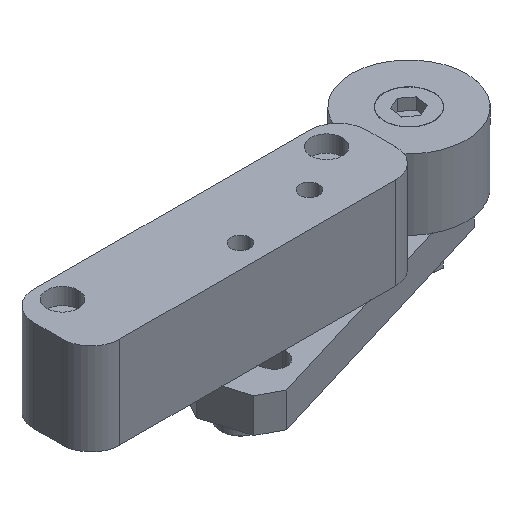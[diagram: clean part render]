
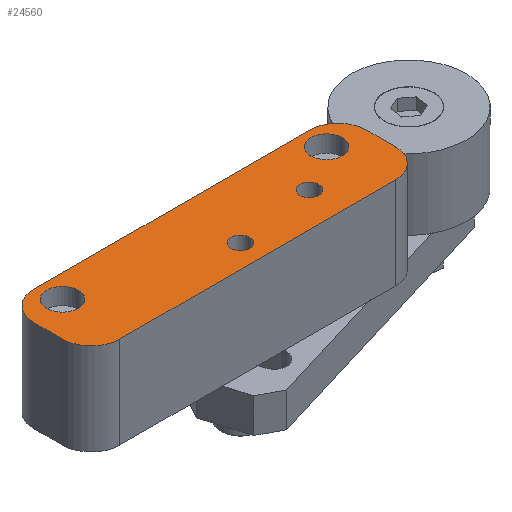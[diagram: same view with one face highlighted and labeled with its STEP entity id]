
A CAD part, isometric view. The second image highlights one B-rep face of the part: STEP entity #24560.
In plain terms, the highlighted planar face has unit normal (0, 0, 1).
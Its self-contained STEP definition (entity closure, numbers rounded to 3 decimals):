
#268 = DIRECTION ( 'NONE',  ( 0., 0., 1. ) ) ;
#677 = DIRECTION ( 'NONE',  ( 1., 0., 0. ) ) ;
#854 = CARTESIAN_POINT ( 'NONE',  ( 0., 15., 16. ) ) ;
#990 = AXIS2_PLACEMENT_3D ( 'NONE', #6327, #21563, #12898 ) ;
#1001 = PLANE ( 'NONE',  #22107 ) ;
#1204 = CIRCLE ( 'NONE', #4461, 5. ) ;
#1300 = CARTESIAN_POINT ( 'NONE',  ( 5., 10., 16. ) ) ;
#1383 = EDGE_CURVE ( 'NONE', #1759, #11431, #6892, .T. ) ;
#1657 = CARTESIAN_POINT ( 'NONE',  ( 49.25, 11., 16. ) ) ;
#1759 = VERTEX_POINT ( 'NONE', #12812 ) ;
#1770 = AXIS2_PLACEMENT_3D ( 'NONE', #1903, #15436, #13404 ) ;
#1903 = CARTESIAN_POINT ( 'NONE',  ( 44., 6., 16. ) ) ;
#2221 = CARTESIAN_POINT ( 'NONE',  ( 6., 11., 16. ) ) ;
#2296 = AXIS2_PLACEMENT_3D ( 'NONE', #13929, #27250, #13508 ) ;
#2404 = AXIS2_PLACEMENT_3D ( 'NONE', #14928, #24013, #4146 ) ;
#2541 = CARTESIAN_POINT ( 'NONE',  ( 5., 15., 16. ) ) ;
#2671 = ORIENTED_EDGE ( 'NONE', *, *, #11312, .F. ) ;
#2823 = CARTESIAN_POINT ( 'NONE',  ( 28.35, 4., 16. ) ) ;
#3387 = EDGE_CURVE ( 'NONE', #24542, #4888, #7503, .T. ) ;
#3896 = CARTESIAN_POINT ( 'NONE',  ( 5., 0., 16. ) ) ;
#4009 = VECTOR ( 'NONE', #22510, 1000. ) ;
#4031 = DIRECTION ( 'NONE',  ( -1., 0., 0. ) ) ;
#4146 = DIRECTION ( 'NONE',  ( -1., 0., 0. ) ) ;
#4163 = LINE ( 'NONE', #14646, #21998 ) ;
#4186 = DIRECTION ( 'NONE',  ( 0., 0., -1. ) ) ;
#4377 = CARTESIAN_POINT ( 'NONE',  ( 0., 0., 16. ) ) ;
#4434 = CARTESIAN_POINT ( 'NONE',  ( 0., 10., 16. ) ) ;
#4461 = AXIS2_PLACEMENT_3D ( 'NONE', #18467, #16456, #27310 ) ;
#4888 = VERTEX_POINT ( 'NONE', #2823 ) ;
#5186 = VERTEX_POINT ( 'NONE', #22483 ) ;
#5533 = DIRECTION ( 'NONE',  ( 0., 1., 0. ) ) ;
#5577 = EDGE_LOOP ( 'NONE', ( #20976, #9783 ) ) ;
#5654 = DIRECTION ( 'NONE',  ( -1., 0., 0. ) ) ;
#5753 = DIRECTION ( 'NONE',  ( 1., 0., 0. ) ) ;
#5769 = FACE_BOUND ( 'NONE', #13762, .T. ) ;
#6163 = EDGE_CURVE ( 'NONE', #24650, #15164, #24645, .T. ) ;
#6258 = ORIENTED_EDGE ( 'NONE', *, *, #3387, .F. ) ;
#6327 = CARTESIAN_POINT ( 'NONE',  ( 30., 4., 16. ) ) ;
#6892 = CIRCLE ( 'NONE', #1770, 1.65 ) ;
#7503 = CIRCLE ( 'NONE', #990, 1.65 ) ;
#7560 = FACE_BOUND ( 'NONE', #20367, .T. ) ;
#7830 = DIRECTION ( 'NONE',  ( 0., 0., 1. ) ) ;
#7885 = CARTESIAN_POINT ( 'NONE',  ( 58., 0., 16. ) ) ;
#8118 = DIRECTION ( 'NONE',  ( 0., 0., 1. ) ) ;
#8158 = ORIENTED_EDGE ( 'NONE', *, *, #21515, .T. ) ;
#8241 = ORIENTED_EDGE ( 'NONE', *, *, #12576, .F. ) ;
#8267 = CIRCLE ( 'NONE', #17101, 5. ) ;
#8407 = VERTEX_POINT ( 'NONE', #11953 ) ;
#8426 = CARTESIAN_POINT ( 'NONE',  ( 53., 0., 16. ) ) ;
#8636 = DIRECTION ( 'NONE',  ( 1., 0., 0. ) ) ;
#8673 = AXIS2_PLACEMENT_3D ( 'NONE', #23437, #7830, #5753 ) ;
#9016 = DIRECTION ( 'NONE',  ( 1., 0., 0. ) ) ;
#9027 = EDGE_CURVE ( 'NONE', #26668, #27558, #11554, .T. ) ;
#9291 = CARTESIAN_POINT ( 'NONE',  ( 44., 6., 16. ) ) ;
#9604 = FACE_OUTER_BOUND ( 'NONE', #11976, .T. ) ;
#9653 = AXIS2_PLACEMENT_3D ( 'NONE', #20326, #11498, #9016 ) ;
#9705 = ORIENTED_EDGE ( 'NONE', *, *, #20348, .T. ) ;
#9779 = CARTESIAN_POINT ( 'NONE',  ( 53., 10., 16. ) ) ;
#9783 = ORIENTED_EDGE ( 'NONE', *, *, #11195, .F. ) ;
#10185 = CIRCLE ( 'NONE', #8673, 2.75 ) ;
#10195 = AXIS2_PLACEMENT_3D ( 'NONE', #9291, #268, #677 ) ;
#10362 = LINE ( 'NONE', #7885, #19391 ) ;
#10766 = VERTEX_POINT ( 'NONE', #13599 ) ;
#10909 = EDGE_LOOP ( 'NONE', ( #11395, #2671 ) ) ;
#11195 = EDGE_CURVE ( 'NONE', #17557, #11989, #14830, .T. ) ;
#11312 = EDGE_CURVE ( 'NONE', #11431, #1759, #22660, .T. ) ;
#11395 = ORIENTED_EDGE ( 'NONE', *, *, #1383, .F. ) ;
#11431 = VERTEX_POINT ( 'NONE', #28542 ) ;
#11498 = DIRECTION ( 'NONE',  ( 0., 0., 1. ) ) ;
#11554 = LINE ( 'NONE', #4377, #4009 ) ;
#11953 = CARTESIAN_POINT ( 'NONE',  ( 54.75, 11., 16. ) ) ;
#11976 = EDGE_LOOP ( 'NONE', ( #21919, #12438, #12371, #9705, #26650, #26683, #8158, #15586 ) ) ;
#11989 = VERTEX_POINT ( 'NONE', #20509 ) ;
#12333 = EDGE_CURVE ( 'NONE', #5186, #22069, #23185, .T. ) ;
#12344 = AXIS2_PLACEMENT_3D ( 'NONE', #2221, #17797, #8636 ) ;
#12371 = ORIENTED_EDGE ( 'NONE', *, *, #12333, .T. ) ;
#12438 = ORIENTED_EDGE ( 'NONE', *, *, #14345, .T. ) ;
#12576 = EDGE_CURVE ( 'NONE', #4888, #24542, #16336, .T. ) ;
#12659 = DIRECTION ( 'NONE',  ( -1., 0., 0. ) ) ;
#12812 = CARTESIAN_POINT ( 'NONE',  ( 45.65, 6., 16. ) ) ;
#12898 = DIRECTION ( 'NONE',  ( 1., 0., 0. ) ) ;
#13058 = DIRECTION ( 'NONE',  ( 1., 0., 0. ) ) ;
#13363 = AXIS2_PLACEMENT_3D ( 'NONE', #9779, #19602, #12659 ) ;
#13404 = DIRECTION ( 'NONE',  ( 1., 0., 0. ) ) ;
#13508 = DIRECTION ( 'NONE',  ( 1., 0., 0. ) ) ;
#13599 = CARTESIAN_POINT ( 'NONE',  ( 58., 10., 16. ) ) ;
#13762 = EDGE_LOOP ( 'NONE', ( #24186, #19142 ) ) ;
#13929 = CARTESIAN_POINT ( 'NONE',  ( 6., 11., 16. ) ) ;
#14345 = EDGE_CURVE ( 'NONE', #10766, #5186, #28632, .T. ) ;
#14394 = CARTESIAN_POINT ( 'NONE',  ( 0., 0., 16. ) ) ;
#14616 = VERTEX_POINT ( 'NONE', #3896 ) ;
#14646 = CARTESIAN_POINT ( 'NONE',  ( 0., 0., 16. ) ) ;
#14830 = CIRCLE ( 'NONE', #2296, 2.75 ) ;
#14928 = CARTESIAN_POINT ( 'NONE',  ( 53., 5., 16. ) ) ;
#15164 = VERTEX_POINT ( 'NONE', #24498 ) ;
#15436 = DIRECTION ( 'NONE',  ( 0., 0., 1. ) ) ;
#15586 = ORIENTED_EDGE ( 'NONE', *, *, #6163, .T. ) ;
#16336 = CIRCLE ( 'NONE', #22331, 1.65 ) ;
#16456 = DIRECTION ( 'NONE',  ( 0., 0., 1. ) ) ;
#16720 = DIRECTION ( 'NONE',  ( -1., 0., 0. ) ) ;
#16800 = EDGE_CURVE ( 'NONE', #8407, #28377, #10185, .T. ) ;
#17101 = AXIS2_PLACEMENT_3D ( 'NONE', #1300, #27465, #5654 ) ;
#17245 = EDGE_CURVE ( 'NONE', #27558, #14616, #1204, .T. ) ;
#17557 = VERTEX_POINT ( 'NONE', #23302 ) ;
#17797 = DIRECTION ( 'NONE',  ( 0., 0., 1. ) ) ;
#18018 = CIRCLE ( 'NONE', #9653, 2.75 ) ;
#18467 = CARTESIAN_POINT ( 'NONE',  ( 5., 5., 16. ) ) ;
#19142 = ORIENTED_EDGE ( 'NONE', *, *, #24917, .F. ) ;
#19391 = VECTOR ( 'NONE', #5533, 1000. ) ;
#19602 = DIRECTION ( 'NONE',  ( 0., 0., 1. ) ) ;
#20326 = CARTESIAN_POINT ( 'NONE',  ( 52., 11., 16. ) ) ;
#20348 = EDGE_CURVE ( 'NONE', #22069, #26668, #8267, .T. ) ;
#20367 = EDGE_LOOP ( 'NONE', ( #6258, #8241 ) ) ;
#20509 = CARTESIAN_POINT ( 'NONE',  ( 8.75, 11., 16. ) ) ;
#20976 = ORIENTED_EDGE ( 'NONE', *, *, #22412, .F. ) ;
#21445 = DIRECTION ( 'NONE',  ( 1., 0., 0. ) ) ;
#21515 = EDGE_CURVE ( 'NONE', #14616, #24650, #4163, .T. ) ;
#21563 = DIRECTION ( 'NONE',  ( 0., 0., 1. ) ) ;
#21919 = ORIENTED_EDGE ( 'NONE', *, *, #25694, .T. ) ;
#21998 = VECTOR ( 'NONE', #13058, 1000. ) ;
#22069 = VERTEX_POINT ( 'NONE', #2541 ) ;
#22107 = AXIS2_PLACEMENT_3D ( 'NONE', #14394, #4186, #4031 ) ;
#22331 = AXIS2_PLACEMENT_3D ( 'NONE', #23745, #8118, #21445 ) ;
#22412 = EDGE_CURVE ( 'NONE', #11989, #17557, #24818, .T. ) ;
#22483 = CARTESIAN_POINT ( 'NONE',  ( 53., 15., 16. ) ) ;
#22510 = DIRECTION ( 'NONE',  ( 0., -1., 0. ) ) ;
#22567 = CARTESIAN_POINT ( 'NONE',  ( 0., 5., 16. ) ) ;
#22660 = CIRCLE ( 'NONE', #10195, 1.65 ) ;
#22907 = FACE_BOUND ( 'NONE', #10909, .T. ) ;
#23185 = LINE ( 'NONE', #854, #24174 ) ;
#23302 = CARTESIAN_POINT ( 'NONE',  ( 3.25, 11., 16. ) ) ;
#23437 = CARTESIAN_POINT ( 'NONE',  ( 52., 11., 16. ) ) ;
#23461 = CARTESIAN_POINT ( 'NONE',  ( 31.65, 4., 16. ) ) ;
#23745 = CARTESIAN_POINT ( 'NONE',  ( 30., 4., 16. ) ) ;
#24013 = DIRECTION ( 'NONE',  ( 0., 0., 1. ) ) ;
#24174 = VECTOR ( 'NONE', #16720, 1000. ) ;
#24186 = ORIENTED_EDGE ( 'NONE', *, *, #16800, .F. ) ;
#24498 = CARTESIAN_POINT ( 'NONE',  ( 58., 5., 16. ) ) ;
#24542 = VERTEX_POINT ( 'NONE', #23461 ) ;
#24560 = ADVANCED_FACE ( 'NONE', ( #25546, #5769, #7560, #22907, #9604 ), #1001, .F. ) ;
#24645 = CIRCLE ( 'NONE', #2404, 5. ) ;
#24650 = VERTEX_POINT ( 'NONE', #8426 ) ;
#24818 = CIRCLE ( 'NONE', #12344, 2.75 ) ;
#24917 = EDGE_CURVE ( 'NONE', #28377, #8407, #18018, .T. ) ;
#25546 = FACE_BOUND ( 'NONE', #5577, .T. ) ;
#25694 = EDGE_CURVE ( 'NONE', #15164, #10766, #10362, .T. ) ;
#26650 = ORIENTED_EDGE ( 'NONE', *, *, #9027, .T. ) ;
#26668 = VERTEX_POINT ( 'NONE', #4434 ) ;
#26683 = ORIENTED_EDGE ( 'NONE', *, *, #17245, .T. ) ;
#27250 = DIRECTION ( 'NONE',  ( 0., 0., 1. ) ) ;
#27310 = DIRECTION ( 'NONE',  ( -1., 0., 0. ) ) ;
#27465 = DIRECTION ( 'NONE',  ( 0., 0., 1. ) ) ;
#27558 = VERTEX_POINT ( 'NONE', #22567 ) ;
#28377 = VERTEX_POINT ( 'NONE', #1657 ) ;
#28542 = CARTESIAN_POINT ( 'NONE',  ( 42.35, 6., 16. ) ) ;
#28632 = CIRCLE ( 'NONE', #13363, 5. ) ;
